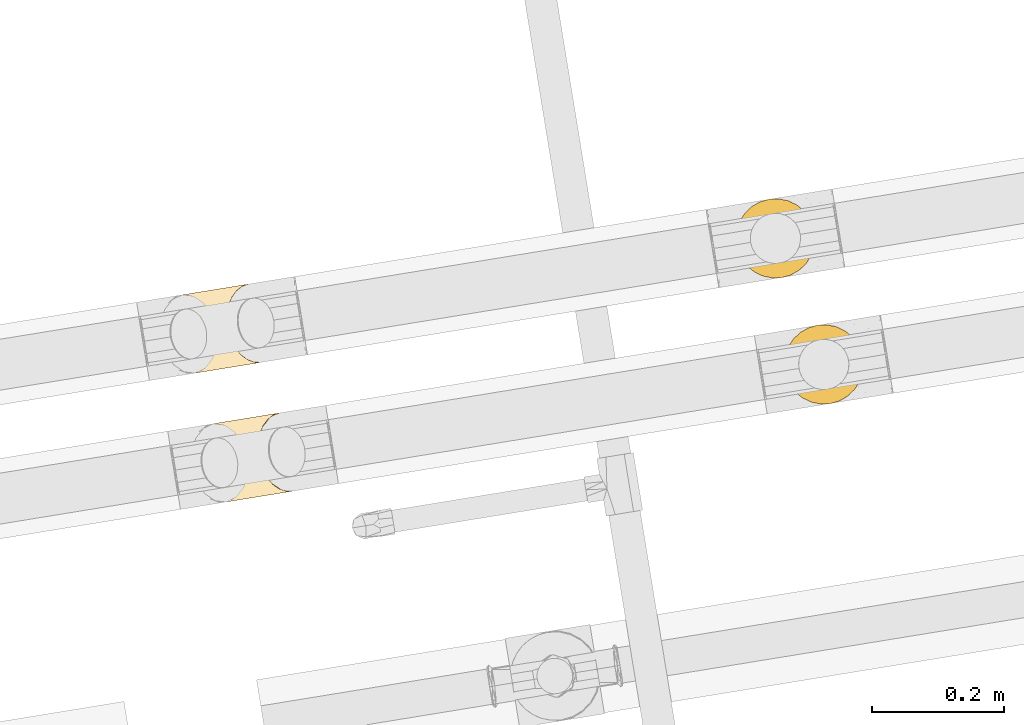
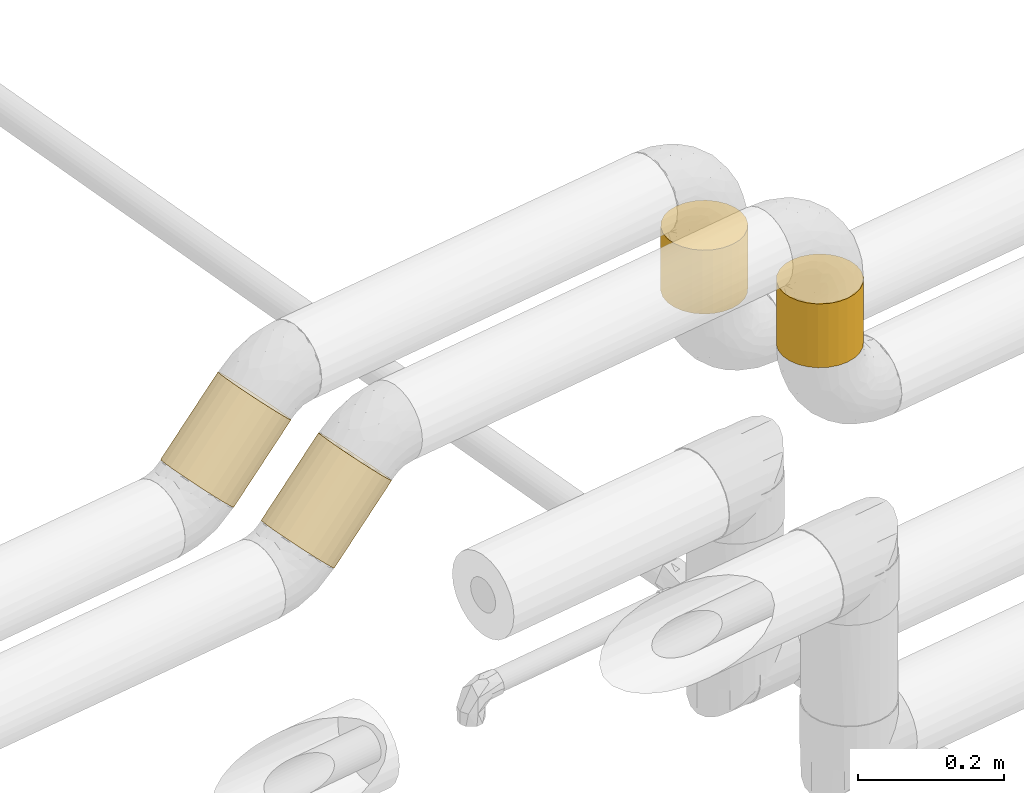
# One storey, part 1 of 56: 4 coverings.
"""IFC2X3 building model written with IfcOpenShell, lengths in millimetres."""

import ifcopenshell
import ifcopenshell.guid

model = None  # the IFC model being written
_history = None  # IfcOwnerHistory: only IFC2X3 demands one
_inside = {}  # id of a spatial element -> (the spatial element, [elements in it])
_under = {}  # id of a project, library or spatial element -> (it, [spatial elements below it])
_declared = {}  # id of a project -> (the project, [libraries it declares])
_typed = {}  # id of a type object -> (the type object, [elements of that type])
_made_of = {}  # id of a material, layer set ... -> (it, [elements and type objects made of it])


def new_model(schema):
    """Start an empty IFC model of exactly this schema.

    Asked for "IFC4X3", IfcOpenShell would pick the latest addendum, in which some entities
    have other attributes; the version numbers below select the first issue.
    IFC2X3 requires an IfcOwnerHistory on every rooted entity: one is made here for all.
    """
    global model, _history
    if schema == "IFC4X3":
        model = ifcopenshell.file(schema_version=(4, 3, 0, 0))
    else:
        model = ifcopenshell.file(schema=schema)
    _inside.clear()
    _under.clear()
    _declared.clear()
    _typed.clear()
    _made_of.clear()
    _history = None
    if model.schema == "IFC2X3":
        org = make("IfcOrganization", Name="unknown")
        user = make(
            "IfcPersonAndOrganization",
            ThePerson=make("IfcPerson", FamilyName="unknown"),
            TheOrganization=org,
        )
        app = make(
            "IfcApplication",
            ApplicationDeveloper=org,
            Version="unknown",
            ApplicationFullName="unknown",
            ApplicationIdentifier="unknown",
        )
        _history = make(
            "IfcOwnerHistory",
            OwningUser=user,
            OwningApplication=app,
            ChangeAction="ADDED",
            CreationDate=0,
        )
    return model


def make(cls, **values):
    """One entity of the class cls with the attributes given. An attribute that is None is left unset."""
    return model.create_entity(
        cls, **{name: value for name, value in values.items() if value is not None}
    )


def entity(cls, *values):
    """Any entity or typed value of the class cls, its attributes in the order of the schema. None: left unset."""
    e = model.create_entity(cls)
    for i, value in enumerate(values):
        if value is not None:
            e[i] = value
    return e


def rooted(cls, **values):
    """An entity with a GlobalId (a new one), such as an element, a storey or a relation."""
    return make(cls, GlobalId=ifcopenshell.guid.new(), OwnerHistory=_history, **values)


def si_unit(unit_type, name, prefix=None):
    """IfcSIUnit, for example si_unit("LENGTHUNIT", "METRE", prefix="MILLI")."""
    return make("IfcSIUnit", UnitType=unit_type, Prefix=prefix, Name=name)


def converted_unit(unit_type, name, factor, base, dimensions=None, offset=None):
    """IfcConversionBasedUnit, such as the inch: factor (a typed value) times the base unit."""
    return make(
        "IfcConversionBasedUnit"
        if offset is None
        else "IfcConversionBasedUnitWithOffset",
        ConversionOffset=offset,
        Dimensions=None
        if dimensions is None
        else entity("IfcDimensionalExponents", *dimensions),
        UnitType=unit_type,
        Name=name,
        ConversionFactor=make(
            "IfcMeasureWithUnit", ValueComponent=factor, UnitComponent=base
        ),
    )


def derived_unit(unit_type, elements):
    """IfcDerivedUnit: a product of units, each with its exponent."""
    return make(
        "IfcDerivedUnit",
        Elements=[
            make("IfcDerivedUnitElement", Unit=unit, Exponent=power)
            for unit, power in elements
        ],
        UnitType=unit_type,
    )


def assignment(units):
    """IfcUnitAssignment: the units of a project."""
    return None if units is None else make("IfcUnitAssignment", Units=units)


def point(xyz):
    """IfcCartesianPoint."""
    return None if xyz is None else make("IfcCartesianPoint", Coordinates=xyz)


def direction(xyz):
    """IfcDirection."""
    return None if xyz is None else make("IfcDirection", DirectionRatios=xyz)


def frame(location, z_axis=None, x_axis=None):
    """IfcAxis2Placement3D, a coordinate frame: its origin and axes. An axis left out is left unset."""
    return make(
        "IfcAxis2Placement3D",
        Location=point(location),
        Axis=direction(z_axis),
        RefDirection=direction(x_axis),
    )


def frame_2d(location, x_axis=None):
    """IfcAxis2Placement2D, a coordinate frame in the plane: its origin and x axis."""
    return make(
        "IfcAxis2Placement2D", Location=point(location), RefDirection=direction(x_axis)
    )


def origin():
    """The frame at (0, 0, 0) with its axes left unset."""
    return frame((0.0, 0.0, 0.0))


def origin_with_axes():
    """The frame at (0, 0, 0) with the z axis (0, 0, 1) and the x axis (1, 0, 0) written out."""
    return frame((0.0, 0.0, 0.0), z_axis=(0.0, 0.0, 1.0), x_axis=(1.0, 0.0, 0.0))


def origin_2d_with_axis():
    """The frame at (0, 0) in the plane with the x axis (1, 0) written out."""
    return frame_2d((0.0, 0.0), x_axis=(1.0, 0.0))


def place(relative_to, where):
    """IfcLocalPlacement: puts the frame where relative to a parent placement (None: the world)."""
    return make(
        "IfcLocalPlacement", PlacementRelTo=relative_to, RelativePlacement=where
    )


def context(
    kind, dimensions, precision=None, world=None, true_north=None, identifier=None
):
    """IfcGeometricRepresentationContext, for example the 3D "Model" context."""
    return make(
        "IfcGeometricRepresentationContext",
        ContextIdentifier=identifier,
        ContextType=kind,
        CoordinateSpaceDimension=dimensions,
        Precision=precision,
        WorldCoordinateSystem=world,
        TrueNorth=true_north,
    )


def subcontext(parent, identifier, kind, view, scale=None):
    """IfcGeometricRepresentationSubContext, for example "Body" below "Model"."""
    return make(
        "IfcGeometricRepresentationSubContext",
        ContextIdentifier=identifier,
        ContextType=kind,
        ParentContext=parent,
        TargetScale=scale,
        TargetView=view,
    )


def project(units=None, contexts=None):
    """IfcProject with its units and contexts."""
    return rooted(
        "IfcProject",
        Name="project",
        RepresentationContexts=contexts,
        UnitsInContext=assignment(units),
    )


def spatial(cls, under=None, at=None, **own):
    """A site, building, storey or space (cls), placed at a placement, below another one or the project."""
    s = rooted(cls, ObjectPlacement=at, **own)
    if under is not None:
        _under.setdefault(under.id(), (under, []))[1].append(s)
    return s


def profile(cls, at=None, kind="AREA", **sizes):
    """A parametric profile (cls). Its sizes go by their IFC names, for example OverallWidth=200.0."""
    return make(cls, ProfileType=kind, Position=at, **sizes)


def circle(**sizes):
    """IfcCircleProfileDef."""
    return profile("IfcCircleProfileDef", **sizes)


def extrude(swept, where, along, depth):
    """IfcExtrudedAreaSolid: the profile swept, set in the frame where, extruded along a direction by depth."""
    return make(
        "IfcExtrudedAreaSolid",
        SweptArea=swept,
        Position=where,
        ExtrudedDirection=direction(along),
        Depth=depth,
    )


def shape(context_of_items, identifier, shape_type, items):
    """IfcShapeRepresentation: the items that make up one representation, for example the "Body"."""
    return make(
        "IfcShapeRepresentation",
        ContextOfItems=context_of_items,
        RepresentationIdentifier=identifier,
        RepresentationType=shape_type,
        Items=items,
    )


def material(Name=None, Category=None):
    """IfcMaterial."""
    return make("IfcMaterial", Name=Name, Category=Category)


def made_of(thing, what):
    """Note that an element or type object is made of a material, layer set ...; save() writes the relation."""
    if what is not None:
        _made_of.setdefault(what.id(), (what, []))[1].append(thing)
    return thing


def type_object(cls, material=None, **own):
    """A type object (cls), such as IfcWallType, which elements share."""
    return made_of(rooted(cls, **own), material)


def element(
    cls,
    number,
    at=None,
    inside=None,
    cuts=None,
    type_object=None,
    material=None,
    context=None,
    identifier="Body",
    shape_type=None,
    held_by="IfcProductDefinitionShape",
    body=None,
    shapes=None,
    **own,
):
    """One element of the class cls, such as IfcWall. Its Tag is "e" and its number.

    at: its placement. inside: the storey or other place that contains it. cuts: it is an
    opening in that element (IfcRelVoidsElement). A single representation is given by context,
    identifier, shape_type and body (its items); several are given by shapes. held_by: the class
    of the entity that holds the representations. save() writes the other relations.
    """
    e = rooted(cls, Tag="e%d" % number, ObjectPlacement=at, **own)
    if body is not None:
        shapes = [shape(context, identifier, shape_type, body)]
    if shapes is not None:
        e.Representation = make(held_by, Representations=shapes)
    if inside is not None:
        _inside.setdefault(inside.id(), (inside, []))[1].append(e)
    if cuts is not None:
        rooted(
            "IfcRelVoidsElement", RelatingBuildingElement=cuts, RelatedOpeningElement=e
        )
    if type_object is not None:
        _typed.setdefault(type_object.id(), (type_object, []))[1].append(e)
    return made_of(e, material)


def aggregate(whole, parts):
    """IfcRelAggregates: a whole, such as a stair, and the parts it consists of."""
    return rooted("IfcRelAggregates", RelatingObject=whole, RelatedObjects=parts)


def save(model, path):
    """Write the relations noted so far, then the file.

    IfcRelAggregates (storeys below a building ...), IfcRelContainedInSpatialStructure (elements
    in a storey), IfcRelDefinesByType, IfcRelAssociatesMaterial and IfcRelDeclares: one each for
    every whole, place, type object, material and project.
    """
    for whole, parts in _under.values():
        aggregate(whole, parts)
    for where, things in _inside.values():
        rooted(
            "IfcRelContainedInSpatialStructure",
            RelatedElements=things,
            RelatingStructure=where,
        )
    for kind, things in _typed.values():
        rooted("IfcRelDefinesByType", RelatedObjects=things, RelatingType=kind)
    for what, things in _made_of.values():
        rooted("IfcRelAssociatesMaterial", RelatedObjects=things, RelatingMaterial=what)
    for by, libraries in _declared.values():
        rooted("IfcRelDeclares", RelatingContext=by, RelatedDefinitions=libraries)
    model.write(path)


model = new_model("IFC2X3")

# Units and contexts
model_context = context("Model", 3, precision=0.01, world=origin(), true_north=direction((6.12323399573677e-17, 1.0)))
plan_context = context("Plan", 3, precision=1e-05, world=origin_with_axes())
body_context = subcontext(model_context, "Body", "Model", "MODEL_VIEW")
ifc_project = project(units=[converted_unit("PLANEANGLEUNIT", "DEGREE", entity("IfcPositiveLengthMeasure", 0.0174532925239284), si_unit("PLANEANGLEUNIT", "RADIAN"), dimensions=[0, 0, 0, 0, 0, 0, 0]), si_unit("AREAUNIT", "SQUARE_METRE"), si_unit("LENGTHUNIT", "METRE", prefix="MILLI"), si_unit("MASSUNIT", "GRAM", prefix="KILO"), si_unit("POWERUNIT", "WATT"), si_unit("PRESSUREUNIT", "PASCAL", prefix="KILO"), si_unit("FORCEUNIT", "NEWTON", prefix="KILO"), si_unit("ELECTRICVOLTAGEUNIT", "VOLT"), si_unit("ELECTRICCURRENTUNIT", "AMPERE"), si_unit("THERMODYNAMICTEMPERATUREUNIT", "DEGREE_CELSIUS"), si_unit("TIMEUNIT", "SECOND"), si_unit("VOLUMEUNIT", "CUBIC_METRE"), derived_unit("LINEARVELOCITYUNIT", [(si_unit("LENGTHUNIT", "METRE"), 1), (si_unit("TIMEUNIT", "SECOND"), -1)]), derived_unit("VOLUMETRICFLOWRATEUNIT", [(si_unit("VOLUMEUNIT", "CUBIC_METRE"), 1), (si_unit("TIMEUNIT", "SECOND"), -1)]), derived_unit("THERMALTRANSMITTANCEUNIT", [(si_unit("POWERUNIT", "WATT"), 1), (si_unit("THERMODYNAMICTEMPERATUREUNIT", "KELVIN"), -1), (si_unit("AREAUNIT", "SQUARE_METRE"), -1)]), derived_unit("SOUNDPRESSUREUNIT", [(si_unit("PRESSUREUNIT", "PASCAL"), 1)])], contexts=[model_context, plan_context])

# Site, building, storey
site_placement = place(None, frame((-3.09682673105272e-06, 1.93776733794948e-05, 0.0), z_axis=(0.0, 0.0, 1.0), x_axis=(-0.160806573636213, 0.986985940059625, 0.0)))
site = spatial("IfcSite", under=ifc_project, at=site_placement, Name="Default", CompositionType="ELEMENT")
building_placement = place(site_placement, frame((0.0, 0.0, 0.0), z_axis=(0.0, 0.0, 1.0), x_axis=(1.0, -2.77555756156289e-17, 0.0)))
building = spatial("IfcBuilding", under=site, at=building_placement, Name="Bygning (endres i Project Information)", CompositionType="ELEMENT")
storey_placement = place(building_placement, frame((0.0, 0.0, 51360.0000000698), z_axis=(0.0, 0.0, 1.0), x_axis=(1.0, -2.77555756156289e-17, 0.0)))
storey = spatial("IfcBuildingStorey", under=building, at=storey_placement, Name="H01-Nivå D+0,36", CompositionType="ELEMENT", Elevation=51360.0000000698)

# Coverings
ifc_material_1 = material(Name="3700.001 Retur")
covering_type = type_object("IfcCoveringType", Name="Pipe Insulation:GLAVA avløpsisol. slange økende 19mm (15,5-25,0)", PredefinedType="INSULATION")
covering_1_placement = place(storey_placement, frame((0.0, 0.0, 0.0), z_axis=(0.0, 0.0, 1.0), x_axis=(1.0, -2.77555756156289e-17, 0.0)))
element("IfcCovering", 1, at=covering_1_placement, inside=storey, type_object=covering_type, material=ifc_material_1, Name="Pipe Insulation:GLAVA avløpsisol. slange økende 19mm (15,5-25,0)", ObjectType="Pipe Insulation:GLAVA avløpsisol. slange økende 19mm (15,5-25,0)", PredefinedType="INSULATION", context=body_context, shape_type="SweptSolid", body=[
    extrude(circle(Radius=60.0499992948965, at=frame_2d((0.0, -3.24657940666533e-10), x_axis=(1.0, 0.0))), frame((1011688.36764294, -394744.908357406, 3469.09335966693), z_axis=(0.0, -0.707106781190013, 0.707106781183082), x_axis=(-1.0, 0.0, 0.0)), (0.0, 0.0, 1.0), 143.987806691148),
])
covering_2_placement = place(storey_placement, frame((0.0, 0.0, 0.0), z_axis=(0.0, 0.0, 1.0), x_axis=(1.0, -2.77555756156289e-17, 0.0)))
element("IfcCovering", 2, at=covering_2_placement, inside=storey, type_object=covering_type, material=ifc_material_1, Name="Pipe Insulation:GLAVA avløpsisol. slange økende 19mm (15,5-25,0)", ObjectType="Pipe Insulation:GLAVA avløpsisol. slange økende 19mm (15,5-25,0)", PredefinedType="INSULATION", context=body_context, shape_type="SweptSolid", body=[
    extrude(circle(Radius=60.0499992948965, at=origin_2d_with_axis()), frame((1011688.36764294, -395670.815734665, 3396.50000000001)), (0.0, 0.0, 1.0), 107.000736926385),
])
ifc_material_2 = material(Name="3700.001 Tur")
covering_3_placement = place(storey_placement, frame((0.0, 0.0, 0.0), z_axis=(0.0, 0.0, 1.0), x_axis=(1.0, -2.77555756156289e-17, 0.0)))
element("IfcCovering", 3, at=covering_3_placement, inside=storey, type_object=covering_type, material=ifc_material_2, Name="Pipe Insulation:GLAVA avløpsisol. slange økende 19mm (15,5-25,0)", ObjectType="Pipe Insulation:GLAVA avløpsisol. slange økende 19mm (15,5-25,0)", PredefinedType="INSULATION", context=body_context, shape_type="SweptSolid", body=[
    extrude(circle(Radius=60.0499992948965, at=frame_2d((0.0, 6.12562152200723e-12), x_axis=(1.0, 0.0))), frame((1011888.36764294, -394729.908357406, 3469.09335966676), z_axis=(0.0, -0.707106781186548, 0.707106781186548), x_axis=(-1.0, 0.0, 0.0)), (0.0, 0.0, 1.0), 143.986764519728),
])
covering_4_placement = place(storey_placement, frame((0.0, 0.0, 0.0), z_axis=(0.0, 0.0, 1.0), x_axis=(1.0, -2.77555756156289e-17, 0.0)))
element("IfcCovering", 4, at=covering_4_placement, inside=storey, type_object=covering_type, material=ifc_material_2, Name="Pipe Insulation:GLAVA avløpsisol. slange økende 19mm (15,5-25,0)", ObjectType="Pipe Insulation:GLAVA avløpsisol. slange økende 19mm (15,5-25,0)", PredefinedType="INSULATION", context=body_context, shape_type="SweptSolid", body=[
    extrude(circle(Radius=60.0499992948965, at=origin_2d_with_axis()), frame((1011888.36764294, -395629.315734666, 3396.5), z_axis=(0.0, 0.0, 1.0), x_axis=(-1.0, 0.0, 0.0)), (0.0, 0.0, 1.0), 107.000000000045),
])

save(model, "model.ifc")
